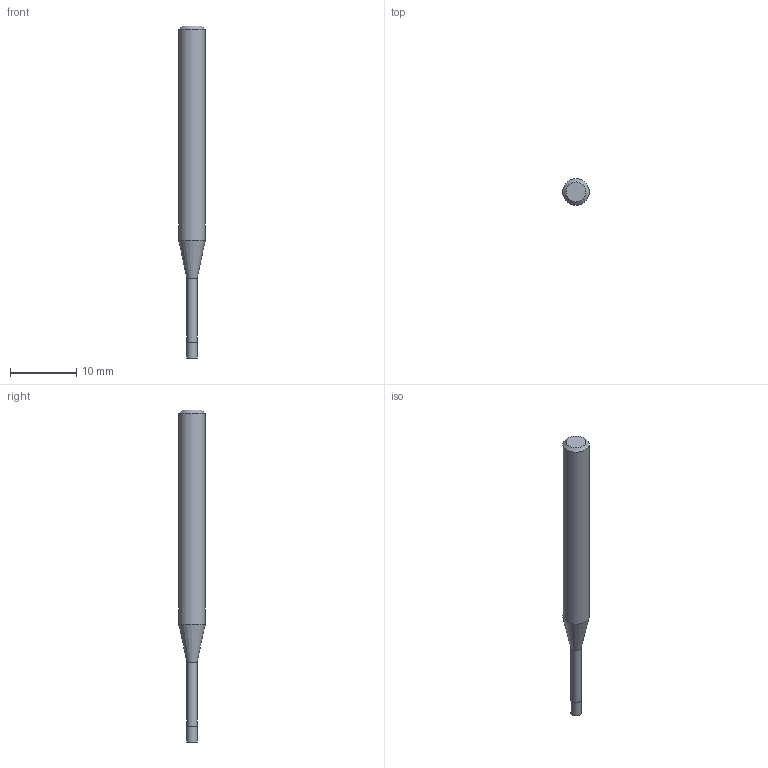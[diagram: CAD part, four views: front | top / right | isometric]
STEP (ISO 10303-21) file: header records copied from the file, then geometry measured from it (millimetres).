
FILE_DESCRIPTION((''),'2;1');
FILE_NAME('C:\Users\nsx150\AppData\Local\Temp\Mastercam 2021\17T8Q8S9EB\TEMP.step','2021-04-21T16:15:04',(''),(''),'STEP Write','Mastercam 2021 ... CNC Software, Inc.','');
FILE_SCHEMA(('AUTOMOTIVE_DESIGN'));
Length unit declared in the file: millimetre
Products named in the file (1): None
Bounding box: 4 x 4 x 50 mm (x, y, z)
Volume: 463.7 mm3; surface area: 529.7 mm2
Topology: 2 solids, 2 shells, 9 faces, 12 edges, 7 vertices
Faces by surface type: plane 4, cylinder 3, cone 2
Full cylindrical faces by diameter (mm): 1.55 x1, 1.6 x1, 4 x1
Entity records: 211 total; most frequent: DIRECTION 36, CARTESIAN_POINT 25, AXIS2_PLACEMENT_3D 18, ORIENTED_EDGE 14, EDGE_LOOP 14, STYLED_ITEM 12, ADVANCED_FACE 9, FACE_BOUND 8
